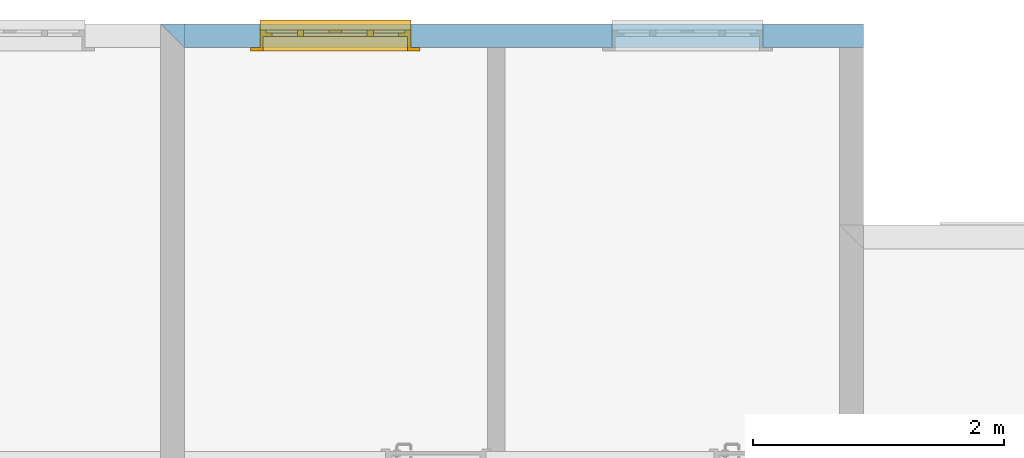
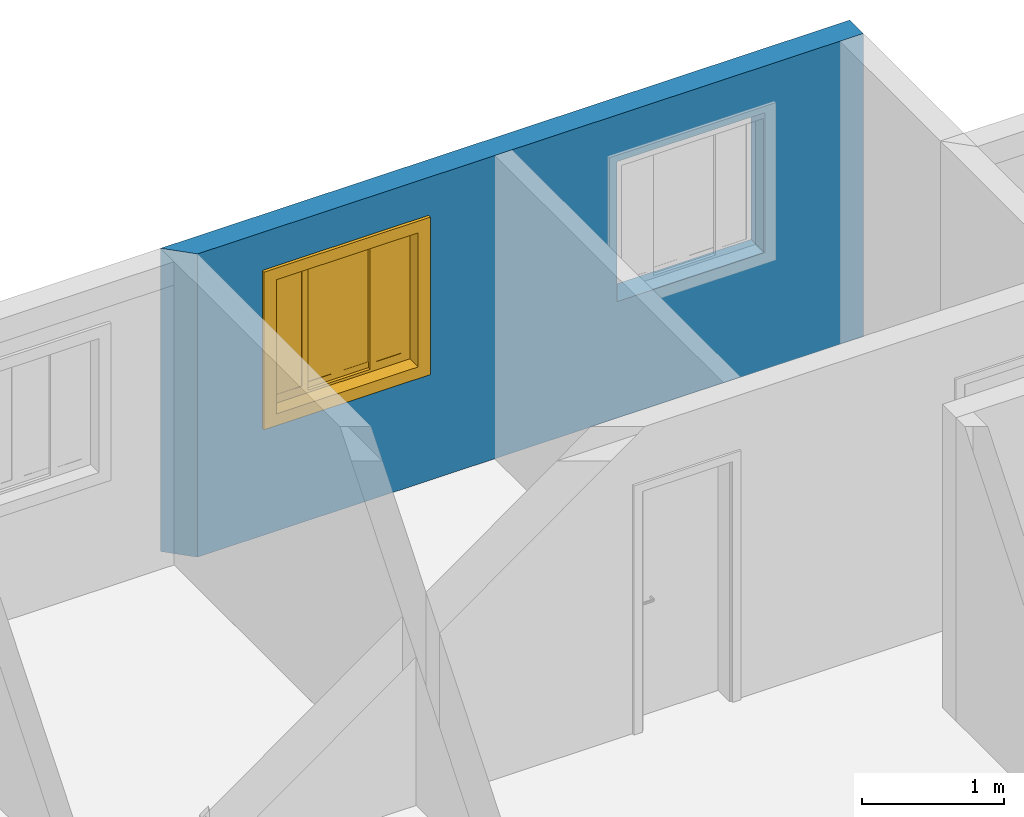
# One storey, part 44 of 47: 1 wall, 1 window, 2 openings.
"""IFC2X3 building model written with IfcOpenShell, lengths in millimetres."""

from ifc_helpers import new_model, entity, si_unit, converted_unit, derived_unit, money_unit, direction, frame, origin_with_axes, origin_2d_with_axis, place, context, subcontext, project, spatial, polyline, rectangle, outline, extrude, open_shell, faceted_brep, surface_model, source, transform, mapped, material, layer, layer_set, layer_usage, type_object, element, fill, save


model = new_model("IFC2X3")

# Units and contexts
model_context = context("Model", 3, precision=0.01, world=origin_with_axes(), true_north=direction((0.0, 1.0)))
body_context = subcontext(model_context, "Body", "Model", "MODEL_VIEW")
ifc_project = project(units=[si_unit("LENGTHUNIT", "METRE", prefix="MILLI"), si_unit("AREAUNIT", "SQUARE_METRE"), si_unit("VOLUMEUNIT", "CUBIC_METRE"), converted_unit("PLANEANGLEUNIT", "DEGREE", entity("IfcPlaneAngleMeasure", 0.0174532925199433), si_unit("PLANEANGLEUNIT", "RADIAN"), dimensions=[0, 0, 0, 0, 0, 0, 0]), money_unit("USD"), converted_unit("TIMEUNIT", "Year", entity("IfcTimeMeasure", 31557600.0), si_unit("TIMEUNIT", "SECOND"), dimensions=[0, 0, 1, 0, 0, 0, 0]), si_unit("MASSUNIT", "GRAM", prefix="KILO"), si_unit("THERMODYNAMICTEMPERATUREUNIT", "DEGREE_CELSIUS"), si_unit("LUMINOUSINTENSITYUNIT", "LUMEN"), si_unit("ENERGYUNIT", "JOULE", prefix="MEGA"), derived_unit("THERMALCONDUCTANCEUNIT", [(si_unit("POWERUNIT", "WATT"), 1), (si_unit("LENGTHUNIT", "METRE"), -1), (si_unit("THERMODYNAMICTEMPERATUREUNIT", "KELVIN"), -1)]), derived_unit("SPECIFICHEATCAPACITYUNIT", [(si_unit("ENERGYUNIT", "JOULE"), 1), (si_unit("MASSUNIT", "GRAM", prefix="KILO"), -1), (si_unit("THERMODYNAMICTEMPERATUREUNIT", "KELVIN"), -1)]), derived_unit("MASSDENSITYUNIT", [(si_unit("MASSUNIT", "GRAM", prefix="KILO"), 1), (si_unit("VOLUMEUNIT", "CUBIC_METRE"), -1)])], contexts=[model_context])

# Site, building, storey
site_placement = place(None, origin_with_axes())
site = spatial("IfcSite", under=ifc_project, at=site_placement, Name="Local", CompositionType="ELEMENT")
building_placement = place(site_placement, origin_with_axes())
building = spatial("IfcBuilding", under=site, at=building_placement, Name="Construção", CompositionType="ELEMENT")
storey_placement = place(building_placement, origin_with_axes())
storey = spatial("IfcBuildingStorey", under=building, at=storey_placement, Name="Pavimento Tipo", CompositionType="ELEMENT", Elevation=0.0)

# Wall, openings, window
ifc_material = material(Name="Concreto - Estrutural")
ifc_layer = layer(ifc_material, 190.0, ventilated="UNKNOWN")
ifc_layer_set = layer_set([ifc_layer], Name="Concreto - Estrutural 190")
ifc_layer_usage = layer_usage(ifc_layer_set, "AXIS2", "NEGATIVE", 190.0)
wall_type = type_object("IfcWallType", Name="Concreto - Estrutural 190", PredefinedType="NOTDEFINED")
wall_placement = place(storey_placement, frame((6442.566997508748, 19186.98141771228, 0.0), z_axis=(0.0, 0.0, 1.0), x_axis=(-1.0, 0.0, 0.0)))
wall = element("IfcWallStandardCase", 1, at=wall_placement, inside=storey, type_object=wall_type, material=ifc_layer_usage, Name="Apartamento 1 - Parede-004", context=body_context, shape_type="SweptSolid", body=[
    extrude(outline(polyline([(0.0, 0.0), (5589.999999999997, 0.0), (5399.999999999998, 190.0000000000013), (0.0, 190.0000000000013), (0.0, 0.0)])), origin_with_axes(), (0.0, 0.0, 1.0), 2600.0),
])
opening_1_placement = place(wall_placement, frame((4199.999999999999, 0.0, 1000.0), z_axis=(0.0, 0.0, 1.0), x_axis=(1.0, 0.0, 0.0)))
opening_1 = element("IfcOpeningElement", 2, at=opening_1_placement, cuts=wall, Name="Apartamento 1 - J06", context=body_context, shape_type="SweptSolid", body=[
    extrude(rectangle(XDim=1200.0, YDim=1200.0, at=origin_2d_with_axis()), frame((0.0, 50.00000000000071, 600.0000000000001), z_axis=(0.0, -1.0, 0.0), x_axis=(-1.0, 0.0, 0.0)), (0.0, 0.0, -1.0), 330.0),
    extrude(rectangle(XDim=1200.0, YDim=1200.0, at=origin_2d_with_axis()), frame((0.0, 50.00000000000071, 600.0000000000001), z_axis=(0.0, 1.0, 0.0), x_axis=(-1.0, 0.0, 0.0)), (0.0, 0.0, -1.0), 240.0),
    extrude(rectangle(XDim=1350.0, YDim=1350.0, at=origin_2d_with_axis()), frame((0.0, 190.0000000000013, 599.9999999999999), z_axis=(0.0, -1.0, 0.0), x_axis=(-1.0, 0.0, 0.0)), (0.0, 0.0, -1.0), 240.0),
])
opening_2_placement = place(wall_placement, frame((1400.0, 0.0, 1000.0), z_axis=(0.0, 0.0, 1.0), x_axis=(1.0, 0.0, 0.0)))
element("IfcOpeningElement", 3, at=opening_2_placement, cuts=wall, Name="Apartamento 1 - J05", context=body_context, shape_type="SweptSolid", body=[
    extrude(rectangle(XDim=1199.999999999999, YDim=1200.0, at=origin_2d_with_axis()), frame((0.0, 50.00000000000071, 600.0000000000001), z_axis=(0.0, 1.0, 0.0), x_axis=(1.0, 0.0, 0.0)), (0.0, 0.0, 1.0), 330.0),
    extrude(rectangle(XDim=1199.999999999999, YDim=1200.0, at=origin_2d_with_axis()), frame((0.0, 50.00000000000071, 600.0000000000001), z_axis=(0.0, -1.0, 0.0), x_axis=(1.0, 0.0, 0.0)), (0.0, 0.0, 1.0), 240.0),
    extrude(rectangle(XDim=1350.0, YDim=1350.0, at=origin_2d_with_axis()), frame((0.0, 190.0000000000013, 599.9999999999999), z_axis=(0.0, 1.0, 0.0), x_axis=(1.0, 0.0, 0.0)), (0.0, 0.0, 1.0), 240.0),
])
window_style = type_object("IfcWindowStyle", Name="Janela de Correr 4-Folhas 27", ConstructionType="NOTDEFINED", OperationType="USERDEFINED", ParameterTakesPrecedence=False, Sizeable=False)
shared_shape = source(origin_with_axes(), body_context, "Body", "SurfaceModel", [
    faceted_brep([(-600.0, 0.0, 5.0), (-600.0, 0.0, 30.0), (-600.0, 50.0, 27.37961103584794), (-600.0, 50.0, 5.000000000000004), (600.0, 0.0, 5.0), (600.0, 0.0, 30.0), (600.0, 50.0, 27.37961103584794), (600.0, 80.0, 25.8073776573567), (-600.0, 80.0, 25.8073776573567), (-600.0, 80.0, 5.000000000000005), (600.0, 80.0, 5.000000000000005), (600.0, 50.0, 5.000000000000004)], [[[0, 1, 2, 3]], [[4, 5, 1, 0]], [[1, 5, 6, 7, 8, 2]], [[3, 2, 8, 9]], [[0, 3, 9, 10, 11, 4]], [[11, 6, 5, 4]], [[10, 7, 6, 11]], [[9, 8, 7, 10]]]),
    faceted_brep([(-600.0, 0.0, 0.0), (-600.0, 0.0, 5.0), (-600.0, 50.0, 5.0), (-600.0, 50.0, 0.0), (600.0, 0.0, 0.0), (600.0, 0.0, 5.0), (600.0, 50.0, 5.0), (600.0, 50.0, 0.0)], [[[0, 1, 2, 3]], [[4, 5, 1, 0]], [[1, 5, 6, 2]], [[3, 2, 6, 7]], [[0, 3, 7, 4]], [[7, 6, 5, 4]]]),
    faceted_brep([(-600.0, -50.0, 0.0), (600.0, -50.0, 0.0), (600.0, -140.0, 0.0), (-600.0, -140.0, 0.0), (-600.0, -50.00000000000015, 1200.0), (600.0, -50.00000000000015, 1200.0), (-575.0, -50.0, 24.99999999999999), (575.0, -50.0, 24.99999999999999), (575.0, -50.00000000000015, 1175.0), (-575.0, -50.00000000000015, 1175.0), (600.0, -140.0000000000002, 1200.0), (-600.0, -140.0000000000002, 1200.0), (-575.0, -140.0, 24.99999999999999), (-575.0, -140.0000000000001, 1175.0), (575.0, -140.0000000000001, 1175.0), (575.0, -140.0, 24.99999999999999)], [[[0, 1, 2, 3]], [[0, 4, 5, 1], [6, 7, 8, 9]], [[1, 5, 10, 2]], [[3, 2, 10, 11], [12, 13, 14, 15]], [[4, 0, 3, 11]], [[5, 4, 11, 10]], [[7, 6, 12, 15]], [[8, 7, 15, 14]], [[9, 8, 14, 13]], [[6, 9, 13, 12]]]),
    faceted_brep([(-674.9999999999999, -165.0, -75.00000000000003), (-674.9999999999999, -140.0, -75.00000000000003), (-575.0, -140.0, 24.99999999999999), (-575.0, -165.0, 24.99999999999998), (-674.9999999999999, -165.0000000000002, 1275.0), (-674.9999999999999, -140.0000000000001, 1275.0), (-575.0, -140.0000000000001, 1175.0), (-575.0, -165.0000000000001, 1175.0)], [[[0, 1, 2, 3]], [[4, 5, 1, 0]], [[1, 5, 6, 2]], [[3, 2, 6, 7]], [[0, 3, 7, 4]], [[7, 6, 5, 4]]]),
    faceted_brep([(674.9999999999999, -165.0000000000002, 1275.0), (674.9999999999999, -140.0000000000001, 1275.0), (575.0, -140.0000000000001, 1175.0), (575.0, -165.0000000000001, 1175.0), (674.9999999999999, -165.0, -75.00000000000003), (674.9999999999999, -140.0, -75.00000000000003), (575.0, -140.0, 24.99999999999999), (575.0, -165.0, 24.99999999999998)], [[[0, 1, 2, 3]], [[4, 5, 1, 0]], [[1, 5, 6, 2]], [[3, 2, 6, 7]], [[0, 3, 7, 4]], [[7, 6, 5, 4]]]),
    faceted_brep([(674.9999999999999, -165.0, -75.00000000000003), (674.9999999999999, -140.0, -75.00000000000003), (575.0, -140.0, 24.99999999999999), (575.0, -165.0, 24.99999999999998), (-674.9999999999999, -165.0, -75.00000000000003), (-674.9999999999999, -140.0, -75.00000000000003), (-575.0, -140.0, 24.99999999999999), (-575.0, -165.0, 24.99999999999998)], [[[0, 1, 2, 3]], [[4, 5, 1, 0]], [[1, 5, 6, 2]], [[3, 2, 6, 7]], [[0, 3, 7, 4]], [[7, 6, 5, 4]]]),
    faceted_brep([(-674.9999999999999, -165.0000000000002, 1275.0), (-674.9999999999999, -140.0000000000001, 1275.0), (-575.0, -140.0000000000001, 1175.0), (-575.0, -165.0000000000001, 1175.0), (674.9999999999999, -165.0000000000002, 1275.0), (674.9999999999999, -140.0000000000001, 1275.0), (575.0, -140.0000000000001, 1175.0), (575.0, -165.0000000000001, 1175.0)], [[[0, 1, 2, 3]], [[4, 5, 1, 0]], [[1, 5, 6, 2]], [[3, 2, 6, 7]], [[0, 3, 7, 4]], [[7, 6, 5, 4]]]),
    faceted_brep([(-552.9999999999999, -50.00000000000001, 47.0), (-552.9999999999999, 0.0, 47.00000000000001), (-552.9999999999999, 0.0, 1153.0), (-552.9999999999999, -50.00000000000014, 1153.0), (-600.0, -50.00000000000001, 47.0), (-600.0, 0.0, 47.00000000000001), (-600.0, 0.0, 1153.0), (-600.0, -50.00000000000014, 1153.0)], [[[0, 1, 2, 3]], [[4, 5, 1, 0]], [[1, 5, 6, 2]], [[3, 2, 6, 7]], [[0, 3, 7, 4]], [[7, 6, 5, 4]]]),
    faceted_brep([(600.0, -50.00000000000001, 47.0), (600.0, 0.0, 47.00000000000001), (600.0, 0.0, 1153.0), (600.0, -50.00000000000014, 1153.0), (552.9999999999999, -50.00000000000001, 47.0), (552.9999999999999, 0.0, 47.00000000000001), (552.9999999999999, 0.0, 1153.0), (552.9999999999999, -50.00000000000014, 1153.0)], [[[0, 1, 2, 3]], [[4, 5, 1, 0]], [[1, 5, 6, 2]], [[3, 2, 6, 7]], [[0, 3, 7, 4]], [[7, 6, 5, 4]]]),
    faceted_brep([(600.0, -50.00000000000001, 47.0), (600.0, 0.0, 47.00000000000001), (552.9999999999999, 0.0, 47.00000000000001), (552.9999999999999, -50.00000000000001, 47.0), (600.0, -50.0, 0.0), (600.0, 0.0, 0.0), (-600.0, 0.0, 0.0), (-600.0, 0.0, 47.00000000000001), (-552.9999999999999, 0.0, 47.00000000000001), (-552.9999999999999, -50.00000000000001, 47.0), (-600.0, -50.00000000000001, 47.0), (-600.0, -50.0, 0.0)], [[[0, 1, 2, 3]], [[4, 5, 1, 0]], [[1, 5, 6, 7, 8, 2]], [[3, 2, 8, 9]], [[0, 3, 9, 10, 11, 4]], [[11, 6, 5, 4]], [[10, 7, 6, 11]], [[9, 8, 7, 10]]]),
    faceted_brep([(600.0, -50.00000000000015, 1200.0), (600.0, 0.0, 1200.0), (-600.0, 0.0, 1200.0), (-600.0, -50.00000000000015, 1200.0), (600.0, -50.00000000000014, 1153.0), (600.0, 0.0, 1153.0), (552.9999999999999, 0.0, 1153.0), (276.5, 0.0, 1153.0), (0.0, 0.0, 1153.0), (-276.4999999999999, 0.0, 1153.0), (-552.9999999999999, 0.0, 1153.0), (-600.0, 0.0, 1153.0), (-600.0, -50.00000000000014, 1153.0), (-552.9999999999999, -50.00000000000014, 1153.0), (-276.4999999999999, -50.00000000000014, 1153.0), (0.0, -50.00000000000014, 1153.0), (276.5, -50.00000000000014, 1153.0), (552.9999999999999, -50.00000000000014, 1153.0)], [[[0, 1, 2, 3]], [[4, 5, 1, 0]], [[1, 5, 6, 7, 8, 9, 10, 11, 2]], [[3, 2, 11, 12]], [[0, 3, 12, 13, 14, 15, 16, 17, 4]], [[17, 6, 5, 4]], [[16, 7, 6, 17]], [[15, 8, 7, 16]], [[14, 9, 8, 15]], [[13, 10, 9, 14]], [[12, 11, 10, 13]]]),
    faceted_brep([(-502.9999999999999, -50.00000000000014, 1103.0), (-502.9999999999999, -25.00000000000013, 1103.0), (-552.9999999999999, -25.00000000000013, 1103.0), (-552.9999999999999, -50.00000000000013, 1103.0), (-502.9999999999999, -50.00000000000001, 97.0), (-502.9999999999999, -25.00000000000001, 97.0), (-552.9999999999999, -25.0, 97.0), (-552.9999999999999, -50.00000000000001, 97.0)], [[[0, 1, 2, 3]], [[4, 5, 1, 0]], [[1, 5, 6, 2]], [[3, 2, 6, 7]], [[0, 3, 7, 4]], [[7, 6, 5, 4]]]),
    faceted_brep([(-301.4999999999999, -50.00000000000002, 97.0), (-301.4999999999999, -25.00000000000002, 97.0), (-251.4999999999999, -25.00000000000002, 97.0), (-251.4999999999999, -50.00000000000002, 97.0), (-301.4999999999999, -50.00000000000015, 1103.0), (-301.4999999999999, -25.00000000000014, 1103.0), (-251.4999999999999, -25.00000000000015, 1103.0), (-251.4999999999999, -50.00000000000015, 1103.0)], [[[0, 1, 2, 3]], [[4, 5, 1, 0]], [[1, 5, 6, 2]], [[3, 2, 6, 7]], [[0, 3, 7, 4]], [[7, 6, 5, 4]]]),
    faceted_brep([(-251.4999999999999, -50.00000000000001, 47.0), (-251.4999999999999, -25.00000000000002, 47.0), (-251.4999999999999, -25.00000000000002, 97.0), (-251.4999999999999, -50.00000000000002, 97.0), (-552.9999999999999, -50.0, 47.0), (-552.9999999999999, -25.0, 47.0), (-552.9999999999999, -25.0, 97.0), (-502.9999999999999, -25.00000000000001, 97.0), (-301.4999999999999, -25.00000000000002, 97.0), (-301.4999999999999, -50.00000000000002, 97.0), (-502.9999999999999, -50.00000000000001, 97.0), (-552.9999999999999, -50.00000000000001, 97.0)], [[[0, 1, 2, 3]], [[4, 5, 1, 0]], [[1, 5, 6, 7, 8, 2]], [[3, 2, 8, 9]], [[0, 3, 9, 10, 11, 4]], [[11, 6, 5, 4]], [[10, 7, 6, 11]], [[9, 8, 7, 10]]]),
    faceted_brep([(-552.9999999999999, -50.00000000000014, 1153.0), (-552.9999999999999, -25.00000000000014, 1153.0), (-552.9999999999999, -25.00000000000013, 1103.0), (-552.9999999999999, -50.00000000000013, 1103.0), (-251.4999999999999, -50.00000000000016, 1153.0), (-251.4999999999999, -25.00000000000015, 1153.0), (-251.4999999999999, -25.00000000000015, 1103.0), (-301.4999999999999, -25.00000000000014, 1103.0), (-502.9999999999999, -25.00000000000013, 1103.0), (-502.9999999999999, -50.00000000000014, 1103.0), (-301.4999999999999, -50.00000000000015, 1103.0), (-251.4999999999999, -50.00000000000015, 1103.0)], [[[0, 1, 2, 3]], [[4, 5, 1, 0]], [[1, 5, 6, 7, 8, 2]], [[3, 2, 8, 9]], [[0, 3, 9, 10, 11, 4]], [[11, 6, 5, 4]], [[10, 7, 6, 11]], [[9, 8, 7, 10]]]),
    surface_model("IfcShellBasedSurfaceModel", [(-502.9999999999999, -47.50000000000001, 97.0), (-301.4999999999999, -47.50000000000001, 97.0), (-301.4999999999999, -47.50000000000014, 1103.0), (-502.9999999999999, -47.50000000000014, 1103.0)], [open_shell([[[0, 1, 2, 3]]])]),
    surface_model("IfcShellBasedSurfaceModel", [(-502.9999999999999, -27.50000000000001, 97.0), (-502.9999999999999, -27.50000000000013, 1103.0), (-301.4999999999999, -27.50000000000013, 1103.0), (-301.4999999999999, -27.50000000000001, 97.0)], [open_shell([[[0, 1, 2, 3]]])]),
    faceted_brep([(-251.4999999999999, -25.00000000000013, 1103.0), (-251.4999999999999, 0.0, 1103.0), (-301.4999999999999, 0.0, 1103.0), (-301.4999999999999, -25.00000000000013, 1103.0), (-251.4999999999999, -25.00000000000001, 97.0), (-251.4999999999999, 0.0, 97.0), (-301.4999999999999, 0.0, 97.0), (-301.4999999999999, -25.0, 97.0)], [[[0, 1, 2, 3]], [[4, 5, 1, 0]], [[1, 5, 6, 2]], [[3, 2, 6, 7]], [[0, 3, 7, 4]], [[7, 6, 5, 4]]]),
    faceted_brep([(-49.99999999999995, -25.00000000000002, 97.0), (-49.99999999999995, 0.0, 97.0), (0.0, 0.0, 97.0), (0.0, -25.00000000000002, 97.0), (-49.99999999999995, -25.00000000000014, 1103.0), (-49.99999999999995, 0.0, 1103.0), (0.0, 0.0, 1103.0), (0.0, -25.00000000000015, 1103.0)], [[[0, 1, 2, 3]], [[4, 5, 1, 0]], [[1, 5, 6, 2]], [[3, 2, 6, 7]], [[0, 3, 7, 4]], [[7, 6, 5, 4]]]),
    faceted_brep([(0.0, -25.00000000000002, 47.0), (0.0, 0.0, 47.0), (0.0, 0.0, 97.0), (0.0, -25.00000000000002, 97.0), (-301.4999999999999, -25.0, 47.0), (-301.4999999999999, 0.0, 47.0), (-301.4999999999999, 0.0, 97.0), (-251.4999999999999, 0.0, 97.0), (-49.99999999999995, 0.0, 97.0), (-49.99999999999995, -25.00000000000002, 97.0), (-251.4999999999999, -25.00000000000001, 97.0), (-301.4999999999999, -25.0, 97.0)], [[[0, 1, 2, 3]], [[4, 5, 1, 0]], [[1, 5, 6, 7, 8, 2]], [[3, 2, 8, 9]], [[0, 3, 9, 10, 11, 4]], [[11, 6, 5, 4]], [[10, 7, 6, 11]], [[9, 8, 7, 10]]]),
    faceted_brep([(-301.4999999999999, -25.00000000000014, 1153.0), (-301.4999999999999, 0.0, 1153.0), (-301.4999999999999, 0.0, 1103.0), (-301.4999999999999, -25.00000000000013, 1103.0), (0.0, -25.00000000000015, 1153.0), (0.0, 0.0, 1153.0), (0.0, 0.0, 1103.0), (-49.99999999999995, 0.0, 1103.0), (-251.4999999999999, 0.0, 1103.0), (-251.4999999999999, -25.00000000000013, 1103.0), (-49.99999999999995, -25.00000000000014, 1103.0), (0.0, -25.00000000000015, 1103.0)], [[[0, 1, 2, 3]], [[4, 5, 1, 0]], [[1, 5, 6, 7, 8, 2]], [[3, 2, 8, 9]], [[0, 3, 9, 10, 11, 4]], [[11, 6, 5, 4]], [[10, 7, 6, 11]], [[9, 8, 7, 10]]]),
    surface_model("IfcShellBasedSurfaceModel", [(-251.4999999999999, -22.50000000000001, 97.0), (-49.99999999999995, -22.50000000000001, 97.0), (-49.99999999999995, -22.50000000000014, 1103.0), (-251.4999999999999, -22.50000000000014, 1103.0)], [open_shell([[[0, 1, 2, 3]]])]),
    surface_model("IfcShellBasedSurfaceModel", [(-251.4999999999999, -2.500000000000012, 97.0), (-251.4999999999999, -2.500000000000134, 1103.0), (-49.99999999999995, -2.500000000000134, 1103.0), (-49.99999999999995, -2.500000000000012, 97.0)], [open_shell([[[0, 1, 2, 3]]])]),
    faceted_brep([(50.00000000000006, -25.00000000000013, 1103.0), (50.00000000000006, 0.0, 1103.0), (0.0, 0.0, 1103.0), (0.0, -25.00000000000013, 1103.0), (50.00000000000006, -25.00000000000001, 97.0), (50.00000000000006, 0.0, 97.0), (0.0, 0.0, 97.0), (0.0, -25.0, 97.0)], [[[0, 1, 2, 3]], [[4, 5, 1, 0]], [[1, 5, 6, 2]], [[3, 2, 6, 7]], [[0, 3, 7, 4]], [[7, 6, 5, 4]]]),
    faceted_brep([(251.5000000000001, -25.00000000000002, 97.0), (251.5000000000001, 0.0, 97.0), (301.5000000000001, 0.0, 97.0), (301.5000000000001, -25.00000000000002, 97.0), (251.5000000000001, -25.00000000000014, 1103.0), (251.5000000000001, 0.0, 1103.0), (301.5000000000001, 0.0, 1103.0), (301.5000000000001, -25.00000000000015, 1103.0)], [[[0, 1, 2, 3]], [[4, 5, 1, 0]], [[1, 5, 6, 2]], [[3, 2, 6, 7]], [[0, 3, 7, 4]], [[7, 6, 5, 4]]]),
    faceted_brep([(301.5000000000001, -25.00000000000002, 47.0), (301.5000000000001, 0.0, 47.0), (301.5000000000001, 0.0, 97.0), (301.5000000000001, -25.00000000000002, 97.0), (0.0, -25.0, 47.0), (0.0, 0.0, 47.0), (0.0, 0.0, 97.0), (50.00000000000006, 0.0, 97.0), (251.5000000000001, 0.0, 97.0), (251.5000000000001, -25.00000000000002, 97.0), (50.00000000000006, -25.00000000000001, 97.0), (0.0, -25.0, 97.0)], [[[0, 1, 2, 3]], [[4, 5, 1, 0]], [[1, 5, 6, 7, 8, 2]], [[3, 2, 8, 9]], [[0, 3, 9, 10, 11, 4]], [[11, 6, 5, 4]], [[10, 7, 6, 11]], [[9, 8, 7, 10]]]),
    faceted_brep([(0.0, -25.00000000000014, 1153.0), (0.0, 0.0, 1153.0), (0.0, 0.0, 1103.0), (0.0, -25.00000000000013, 1103.0), (301.5000000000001, -25.00000000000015, 1153.0), (301.5000000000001, 0.0, 1153.0), (301.5000000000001, 0.0, 1103.0), (251.5000000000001, 0.0, 1103.0), (50.00000000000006, 0.0, 1103.0), (50.00000000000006, -25.00000000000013, 1103.0), (251.5000000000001, -25.00000000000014, 1103.0), (301.5000000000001, -25.00000000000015, 1103.0)], [[[0, 1, 2, 3]], [[4, 5, 1, 0]], [[1, 5, 6, 7, 8, 2]], [[3, 2, 8, 9]], [[0, 3, 9, 10, 11, 4]], [[11, 6, 5, 4]], [[10, 7, 6, 11]], [[9, 8, 7, 10]]]),
    surface_model("IfcShellBasedSurfaceModel", [(50.00000000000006, -22.50000000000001, 97.0), (251.5000000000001, -22.50000000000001, 97.0), (251.5000000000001, -22.50000000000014, 1103.0), (50.00000000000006, -22.50000000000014, 1103.0)], [open_shell([[[0, 1, 2, 3]]])]),
    surface_model("IfcShellBasedSurfaceModel", [(50.00000000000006, -2.500000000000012, 97.0), (50.00000000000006, -2.500000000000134, 1103.0), (251.5000000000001, -2.500000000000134, 1103.0), (251.5000000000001, -2.500000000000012, 97.0)], [open_shell([[[0, 1, 2, 3]]])]),
    faceted_brep([(301.5000000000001, -50.00000000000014, 1103.0), (301.5000000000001, -25.00000000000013, 1103.0), (251.5000000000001, -25.00000000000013, 1103.0), (251.5000000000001, -50.00000000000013, 1103.0), (301.5000000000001, -50.00000000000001, 97.0), (301.5000000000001, -25.00000000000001, 97.0), (251.5000000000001, -25.0, 97.0), (251.5000000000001, -50.00000000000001, 97.0)], [[[0, 1, 2, 3]], [[4, 5, 1, 0]], [[1, 5, 6, 2]], [[3, 2, 6, 7]], [[0, 3, 7, 4]], [[7, 6, 5, 4]]]),
    faceted_brep([(503.0, -50.00000000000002, 97.0), (503.0, -25.00000000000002, 97.0), (553.0, -25.00000000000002, 97.0), (553.0, -50.00000000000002, 97.0), (503.0, -50.00000000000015, 1103.0), (503.0, -25.00000000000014, 1103.0), (553.0, -25.00000000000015, 1103.0), (553.0, -50.00000000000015, 1103.0)], [[[0, 1, 2, 3]], [[4, 5, 1, 0]], [[1, 5, 6, 2]], [[3, 2, 6, 7]], [[0, 3, 7, 4]], [[7, 6, 5, 4]]]),
    faceted_brep([(553.0, -50.00000000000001, 47.0), (553.0, -25.00000000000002, 47.0), (553.0, -25.00000000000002, 97.0), (553.0, -50.00000000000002, 97.0), (251.5000000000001, -50.0, 47.0), (251.5000000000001, -25.0, 47.0), (251.5000000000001, -25.0, 97.0), (301.5000000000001, -25.00000000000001, 97.0), (503.0, -25.00000000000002, 97.0), (503.0, -50.00000000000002, 97.0), (301.5000000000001, -50.00000000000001, 97.0), (251.5000000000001, -50.00000000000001, 97.0)], [[[0, 1, 2, 3]], [[4, 5, 1, 0]], [[1, 5, 6, 7, 8, 2]], [[3, 2, 8, 9]], [[0, 3, 9, 10, 11, 4]], [[11, 6, 5, 4]], [[10, 7, 6, 11]], [[9, 8, 7, 10]]]),
    faceted_brep([(251.5000000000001, -50.00000000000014, 1153.0), (251.5000000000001, -25.00000000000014, 1153.0), (251.5000000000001, -25.00000000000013, 1103.0), (251.5000000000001, -50.00000000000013, 1103.0), (553.0, -50.00000000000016, 1153.0), (553.0, -25.00000000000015, 1153.0), (553.0, -25.00000000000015, 1103.0), (503.0, -25.00000000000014, 1103.0), (301.5000000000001, -25.00000000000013, 1103.0), (301.5000000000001, -50.00000000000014, 1103.0), (503.0, -50.00000000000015, 1103.0), (553.0, -50.00000000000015, 1103.0)], [[[0, 1, 2, 3]], [[4, 5, 1, 0]], [[1, 5, 6, 7, 8, 2]], [[3, 2, 8, 9]], [[0, 3, 9, 10, 11, 4]], [[11, 6, 5, 4]], [[10, 7, 6, 11]], [[9, 8, 7, 10]]]),
    surface_model("IfcShellBasedSurfaceModel", [(301.5, -47.50000000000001, 97.0), (503.0, -47.50000000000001, 97.0), (503.0, -47.50000000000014, 1103.0), (301.5, -47.50000000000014, 1103.0)], [open_shell([[[0, 1, 2, 3]]])]),
    surface_model("IfcShellBasedSurfaceModel", [(301.5, -27.50000000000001, 97.0), (301.5, -27.50000000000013, 1103.0), (503.0, -27.50000000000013, 1103.0), (503.0, -27.50000000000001, 97.0)], [open_shell([[[0, 1, 2, 3]]])]),
])
window_placement = place(opening_1_placement, frame((600.0000000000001, 0.0, 0.0), z_axis=(0.0, 0.0, 1.0), x_axis=(-1.0, 0.0, 0.0)))
window = element("IfcWindow", 4, at=window_placement, inside=storey, type_object=window_style, Name="Apartamento 1 - J06", ObjectType="WINDOW", OverallHeight=1200.0, OverallWidth=1200.0, context=body_context, shape_type="MappedRepresentation", body=[
    mapped(shared_shape, transform((600.0000000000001, -50.00000000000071, 0.0))),
])
fill(opening_1, window)

save(model, "model.ifc")
